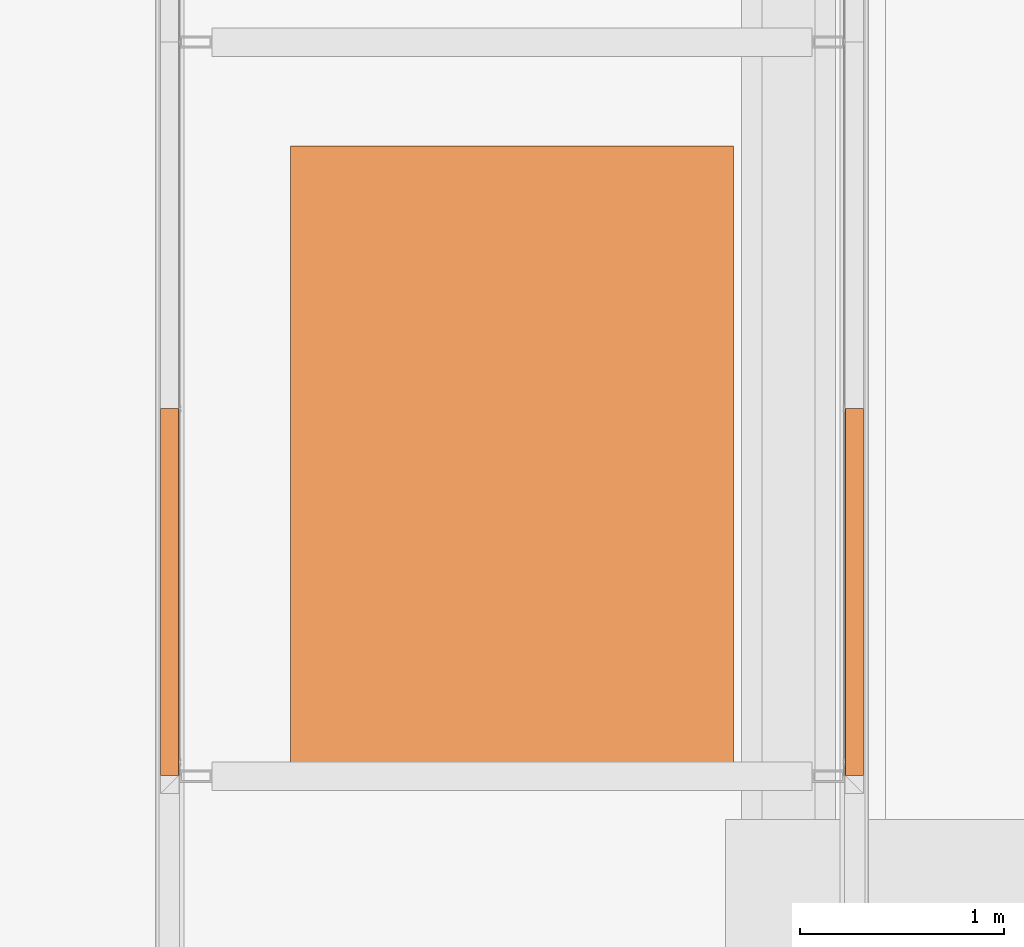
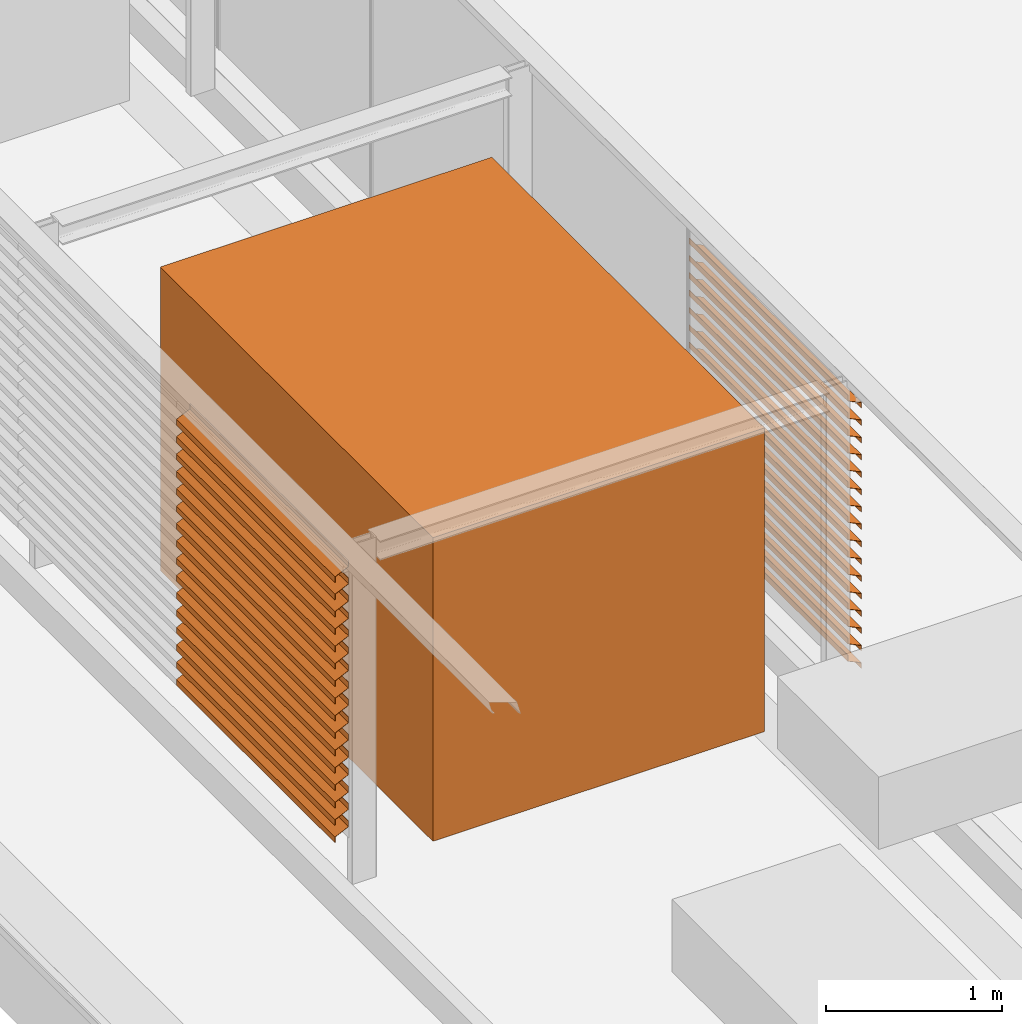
# One storey, part 22 of 32: 33 proxies.
"""IFC2X3 building model written with IfcOpenShell, lengths in millimetres."""

from ifc_helpers import new_model, entity, si_unit, converted_unit, derived_unit, direction, frame, frame_2d, origin, place, context, subcontext, project, spatial, polyline, rectangle, outline, extrude, source, transform, mapped, material, type_object, type_shapes, element, save


model = new_model("IFC2X3")

# Units and contexts
model_context = context("Model", 3, precision=0.01, world=origin(), true_north=direction((6.123031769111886e-17, 1.0)))
body_context = subcontext(model_context, "Body", "Model", "MODEL_VIEW")
ifc_project = project(units=[si_unit("LENGTHUNIT", "METRE", prefix="MILLI"), si_unit("AREAUNIT", "SQUARE_METRE"), si_unit("VOLUMEUNIT", "CUBIC_METRE"), converted_unit("PLANEANGLEUNIT", "DEGREE", entity("IfcRatioMeasure", 0.017453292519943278), si_unit("PLANEANGLEUNIT", "RADIAN"), dimensions=[0, 0, 0, 0, 0, 0, 0]), si_unit("MASSUNIT", "GRAM", prefix="KILO"), derived_unit("MASSDENSITYUNIT", [(si_unit("MASSUNIT", "GRAM", prefix="KILO"), 1), (si_unit("LENGTHUNIT", "METRE"), -3)]), derived_unit("IONCONCENTRATIONUNIT", [(si_unit("MASSUNIT", "GRAM", prefix="KILO"), 1), (si_unit("LENGTHUNIT", "METRE"), -3)]), derived_unit("MOMENTOFINERTIAUNIT", [(si_unit("LENGTHUNIT", "METRE"), 4)]), si_unit("TIMEUNIT", "SECOND"), si_unit("FREQUENCYUNIT", "HERTZ"), si_unit("THERMODYNAMICTEMPERATUREUNIT", "DEGREE_CELSIUS"), derived_unit("THERMALTRANSMITTANCEUNIT", [(si_unit("MASSUNIT", "GRAM", prefix="KILO"), 1), (si_unit("THERMODYNAMICTEMPERATUREUNIT", "KELVIN"), -1), (si_unit("TIMEUNIT", "SECOND"), -3)]), derived_unit("THERMALCONDUCTANCEUNIT", [(si_unit("MASSUNIT", "GRAM", prefix="KILO"), 1), (si_unit("THERMODYNAMICTEMPERATUREUNIT", "KELVIN"), -1), (si_unit("TIMEUNIT", "SECOND"), -3), (si_unit("LENGTHUNIT", "METRE"), 1)]), derived_unit("VOLUMETRICFLOWRATEUNIT", [(si_unit("LENGTHUNIT", "METRE"), 3), (si_unit("TIMEUNIT", "SECOND"), -1)]), derived_unit("MASSFLOWRATEUNIT", [(si_unit("MASSUNIT", "GRAM", prefix="KILO"), 1), (si_unit("TIMEUNIT", "SECOND"), -1)]), derived_unit("ROTATIONALFREQUENCYUNIT", [(si_unit("TIMEUNIT", "SECOND"), -1)]), si_unit("ELECTRICCURRENTUNIT", "AMPERE"), si_unit("ELECTRICVOLTAGEUNIT", "VOLT"), si_unit("POWERUNIT", "WATT"), si_unit("FORCEUNIT", "NEWTON", prefix="KILO"), si_unit("ILLUMINANCEUNIT", "LUX"), si_unit("LUMINOUSFLUXUNIT", "LUMEN"), si_unit("LUMINOUSINTENSITYUNIT", "CANDELA"), derived_unit("USERDEFINED", [(si_unit("MASSUNIT", "GRAM", prefix="KILO"), -1), (si_unit("LENGTHUNIT", "METRE"), -2), (si_unit("TIMEUNIT", "SECOND"), 3), (si_unit("LUMINOUSFLUXUNIT", "LUMEN"), 1)]), derived_unit("USERDEFINED", [(si_unit("MASSUNIT", "GRAM", prefix="KILO"), 1), (si_unit("TIMEUNIT", "SECOND"), -3), (si_unit("LENGTHUNIT", "METRE"), 3), (si_unit("ELECTRICCURRENTUNIT", "AMPERE"), -2)]), derived_unit("SOUNDPOWERUNIT", [(si_unit("MASSUNIT", "GRAM", prefix="KILO"), 1), (si_unit("TIMEUNIT", "SECOND"), -3), (si_unit("LENGTHUNIT", "METRE"), 2)]), derived_unit("SOUNDPRESSUREUNIT", [(si_unit("MASSUNIT", "GRAM", prefix="KILO"), 1), (si_unit("LENGTHUNIT", "METRE"), -1), (si_unit("TIMEUNIT", "SECOND"), -2)]), derived_unit("LINEARVELOCITYUNIT", [(si_unit("LENGTHUNIT", "METRE"), 1), (si_unit("TIMEUNIT", "SECOND"), -1)]), si_unit("PRESSUREUNIT", "PASCAL"), derived_unit("USERDEFINED", [(si_unit("MASSUNIT", "GRAM", prefix="KILO"), 1), (si_unit("LENGTHUNIT", "METRE"), -2), (si_unit("TIMEUNIT", "SECOND"), -2)]), derived_unit("LINEARFORCEUNIT", [(si_unit("MASSUNIT", "GRAM", prefix="KILO"), 1), (si_unit("TIMEUNIT", "SECOND"), -2)]), derived_unit("PLANARFORCEUNIT", [(si_unit("MASSUNIT", "GRAM", prefix="KILO"), 1), (si_unit("LENGTHUNIT", "METRE"), -1), (si_unit("TIMEUNIT", "SECOND"), -2)]), derived_unit("SPECIFICHEATCAPACITYUNIT", [(si_unit("THERMODYNAMICTEMPERATUREUNIT", "KELVIN"), -1), (si_unit("LENGTHUNIT", "METRE"), 2), (si_unit("TIMEUNIT", "SECOND"), -2)]), derived_unit("HEATINGVALUEUNIT", [(si_unit("LENGTHUNIT", "METRE"), 2), (si_unit("TIMEUNIT", "SECOND"), -2)]), derived_unit("VAPORPERMEABILITYUNIT", [(si_unit("LENGTHUNIT", "METRE"), -1), (si_unit("TIMEUNIT", "SECOND"), 1)]), derived_unit("DYNAMICVISCOSITYUNIT", [(si_unit("MASSUNIT", "GRAM", prefix="KILO"), 1), (si_unit("TIMEUNIT", "SECOND"), -1), (si_unit("LENGTHUNIT", "METRE"), -1)]), derived_unit("THERMALEXPANSIONCOEFFICIENTUNIT", [(si_unit("THERMODYNAMICTEMPERATUREUNIT", "KELVIN"), -1)]), derived_unit("MODULUSOFELASTICITYUNIT", [(si_unit("MASSUNIT", "GRAM", prefix="KILO"), 1), (si_unit("LENGTHUNIT", "METRE"), -1), (si_unit("TIMEUNIT", "SECOND"), -2)]), derived_unit("ISOTHERMALMOISTURECAPACITYUNIT", [(si_unit("LENGTHUNIT", "METRE"), 3), (si_unit("MASSUNIT", "GRAM", prefix="KILO"), -1)]), derived_unit("MOISTUREDIFFUSIVITYUNIT", [(si_unit("TIMEUNIT", "SECOND"), -1), (si_unit("LENGTHUNIT", "METRE"), 2)])], contexts=[model_context])

# Site, building, storey
site_placement = place(None, frame((0.0, 300.0, 0.0)))
site = spatial("IfcSite", under=ifc_project, at=site_placement, Name="<Kadastrale nummers>", CompositionType="ELEMENT")
building_placement = place(site_placement, origin())
building = spatial("IfcBuilding", under=site, at=building_placement, CompositionType="ELEMENT")
storey_placement = place(building_placement, frame((0.0, 0.0, 7150.000035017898)))
storey = spatial("IfcBuildingStorey", under=building, at=storey_placement, Name="02 tweede verdieping", CompositionType="ELEMENT", Elevation=7150.000035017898)

# Proxies
building_element_proxy_type_1 = type_object("IfcBuildingElementProxyType", Name="6286649", PredefinedType="NOTDEFINED")
proxy_1_placement = place(storey_placement, origin())
element("IfcBuildingElementProxy", 1, at=proxy_1_placement, inside=storey, type_object=building_element_proxy_type_1, Name="6286649", context=body_context, shape_type="SweptSolid", body=[
    extrude(outline(polyline([(20.108860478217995, -45.0), (60.108860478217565, -45.0), (58.75984344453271, -43.0), (21.383000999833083, -43.0), (-19.652072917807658, 45.0), (-59.89113952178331, 45.0), (-59.89113952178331, 43.0), (-20.92621343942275, 43.0), (20.108860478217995, -45.0)])), frame((41723.0, 31805.0, 2360.1088604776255), z_axis=(0.0, 1.0, 0.0), x_axis=(0.0, 0.0, -1.0)), (0.0, 0.0, 1.0), 1797.5000001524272),
])
building_element_proxy_type_2 = type_object("IfcBuildingElementProxyType", Name="6286650", PredefinedType="NOTDEFINED")
proxy_2_placement = place(storey_placement, origin())
element("IfcBuildingElementProxy", 2, at=proxy_2_placement, inside=storey, type_object=building_element_proxy_type_2, Name="6286650", context=body_context, shape_type="SweptSolid", body=[
    extrude(outline(polyline([(20.108860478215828, -45.0), (60.1088604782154, -45.0), (58.75984344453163, -43.0), (21.383000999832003, -43.0), (-19.65207291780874, 45.0), (-59.891139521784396, 45.0), (-59.891139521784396, 43.0), (-20.926213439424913, 43.0), (20.108860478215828, -45.0)])), frame((41723.0, 31805.0, 2240.1088604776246), z_axis=(0.0, 1.0, 0.0), x_axis=(0.0, 0.0, -1.0)), (0.0, 0.0, 1.0), 1797.5000001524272),
])
building_element_proxy_type_3 = type_object("IfcBuildingElementProxyType", Name="6286651", PredefinedType="NOTDEFINED")
proxy_3_placement = place(storey_placement, origin())
element("IfcBuildingElementProxy", 3, at=proxy_3_placement, inside=storey, type_object=building_element_proxy_type_3, Name="6286651", context=body_context, shape_type="SweptSolid", body=[
    extrude(outline(polyline([(20.10886047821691, -45.0), (60.108860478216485, -45.0), (58.75984344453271, -43.0), (21.383000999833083, -43.0), (-19.652072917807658, 45.0), (-59.89113952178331, 45.0), (-59.89113952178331, 43.0), (-20.92621343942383, 43.0), (20.10886047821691, -45.0)])), frame((41723.0, 31805.0, 2120.1088604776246), z_axis=(0.0, 1.0, 0.0), x_axis=(0.0, 0.0, -1.0)), (0.0, 0.0, 1.0), 1797.5000001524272),
])
building_element_proxy_type_4 = type_object("IfcBuildingElementProxyType", Name="6286652", PredefinedType="NOTDEFINED")
proxy_4_placement = place(storey_placement, origin())
element("IfcBuildingElementProxy", 4, at=proxy_4_placement, inside=storey, type_object=building_element_proxy_type_4, Name="6286652", context=body_context, shape_type="SweptSolid", body=[
    extrude(outline(polyline([(20.108860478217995, -45.0), (60.108860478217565, -45.0), (58.7598434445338, -43.0), (21.383000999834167, -43.0), (-19.652072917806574, 45.0), (-59.89113952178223, 45.0), (-59.89113952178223, 43.0), (-20.92621343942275, 43.0), (20.108860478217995, -45.0)])), frame((41723.0, 31805.0, 2000.108860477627), z_axis=(0.0, 1.0, 0.0), x_axis=(0.0, 0.0, -1.0)), (0.0, 0.0, 1.0), 1797.5000001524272),
])
building_element_proxy_type_5 = type_object("IfcBuildingElementProxyType", Name="6286653", PredefinedType="NOTDEFINED")
proxy_5_placement = place(storey_placement, origin())
element("IfcBuildingElementProxy", 5, at=proxy_5_placement, inside=storey, type_object=building_element_proxy_type_5, Name="6286653", context=body_context, shape_type="SweptSolid", body=[
    extrude(outline(polyline([(20.10886047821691, -45.0), (60.108860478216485, -45.0), (58.75984344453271, -43.0), (21.383000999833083, -43.0), (-19.652072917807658, 45.0), (-59.89113952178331, 45.0), (-59.89113952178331, 43.0), (-20.92621343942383, 43.0), (20.10886047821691, -45.0)])), frame((41723.0, 31805.0, 1880.108860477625), z_axis=(0.0, 1.0, 0.0), x_axis=(0.0, 0.0, -1.0)), (0.0, 0.0, 1.0), 1797.5000001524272),
])
building_element_proxy_type_6 = type_object("IfcBuildingElementProxyType", Name="6286654", PredefinedType="NOTDEFINED")
proxy_6_placement = place(storey_placement, origin())
element("IfcBuildingElementProxy", 6, at=proxy_6_placement, inside=storey, type_object=building_element_proxy_type_6, Name="6286654", context=body_context, shape_type="SweptSolid", body=[
    extrude(outline(polyline([(20.10886047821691, -45.0), (60.108860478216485, -45.0), (58.75984344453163, -43.0), (21.383000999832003, -43.0), (-19.65207291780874, 45.0), (-59.891139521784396, 45.0), (-59.891139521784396, 43.0), (-20.92621343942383, 43.0), (20.10886047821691, -45.0)])), frame((41723.0, 31805.0, 1760.1088604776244), z_axis=(0.0, 1.0, 0.0), x_axis=(0.0, 0.0, -1.0)), (0.0, 0.0, 1.0), 1797.5000001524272),
])
building_element_proxy_type_7 = type_object("IfcBuildingElementProxyType", Name="6286655", PredefinedType="NOTDEFINED")
proxy_7_placement = place(storey_placement, origin())
element("IfcBuildingElementProxy", 7, at=proxy_7_placement, inside=storey, type_object=building_element_proxy_type_7, Name="6286655", context=body_context, shape_type="SweptSolid", body=[
    extrude(outline(polyline([(20.10886047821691, -45.0), (60.108860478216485, -45.0), (58.75984344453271, -43.0), (21.383000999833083, -43.0), (-19.652072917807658, 45.0), (-59.89113952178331, 45.0), (-59.89113952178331, 43.0), (-20.92621343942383, 43.0), (20.10886047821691, -45.0)])), frame((41723.0, 31805.0, 1640.1088604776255), z_axis=(0.0, 1.0, 0.0), x_axis=(0.0, 0.0, -1.0)), (0.0, 0.0, 1.0), 1797.5000001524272),
])
building_element_proxy_type_8 = type_object("IfcBuildingElementProxyType", Name="6286656", PredefinedType="NOTDEFINED")
proxy_8_placement = place(storey_placement, origin())
element("IfcBuildingElementProxy", 8, at=proxy_8_placement, inside=storey, type_object=building_element_proxy_type_8, Name="6286656", context=body_context, shape_type="SweptSolid", body=[
    extrude(outline(polyline([(20.108860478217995, -45.0), (60.108860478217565, -45.0), (58.75984344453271, -43.0), (21.383000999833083, -43.0), (-19.652072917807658, 45.0), (-59.89113952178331, 45.0), (-59.89113952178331, 43.0), (-20.92621343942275, 43.0), (20.108860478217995, -45.0)])), frame((41723.0, 31805.0, 1520.1088604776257), z_axis=(0.0, 1.0, 0.0), x_axis=(0.0, 0.0, -1.0)), (0.0, 0.0, 1.0), 1797.5000001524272),
])
building_element_proxy_type_9 = type_object("IfcBuildingElementProxyType", Name="6286657", PredefinedType="NOTDEFINED")
proxy_9_placement = place(storey_placement, origin())
element("IfcBuildingElementProxy", 9, at=proxy_9_placement, inside=storey, type_object=building_element_proxy_type_9, Name="6286657", context=body_context, shape_type="SweptSolid", body=[
    extrude(outline(polyline([(20.108860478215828, -45.0), (60.1088604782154, -45.0), (58.75984344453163, -43.0), (21.383000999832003, -43.0), (-19.65207291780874, 45.0), (-59.891139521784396, 45.0), (-59.891139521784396, 43.0), (-20.926213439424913, 43.0), (20.108860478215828, -45.0)])), frame((41723.0, 31805.0, 1400.1088604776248), z_axis=(0.0, 1.0, 0.0), x_axis=(0.0, 0.0, -1.0)), (0.0, 0.0, 1.0), 1797.5000001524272),
])
building_element_proxy_type_10 = type_object("IfcBuildingElementProxyType", Name="6286658", PredefinedType="NOTDEFINED")
proxy_10_placement = place(storey_placement, origin())
element("IfcBuildingElementProxy", 10, at=proxy_10_placement, inside=storey, type_object=building_element_proxy_type_10, Name="6286658", context=body_context, shape_type="SweptSolid", body=[
    extrude(outline(polyline([(20.10886047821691, -45.0), (60.108860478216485, -45.0), (58.75984344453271, -43.0), (21.383000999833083, -43.0), (-19.652072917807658, 45.0), (-59.89113952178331, 45.0), (-59.89113952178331, 43.0), (-20.92621343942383, 43.0), (20.10886047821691, -45.0)])), frame((41723.0, 31805.0, 1280.108860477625), z_axis=(0.0, 1.0, 0.0), x_axis=(0.0, 0.0, -1.0)), (0.0, 0.0, 1.0), 1797.5000001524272),
])
building_element_proxy_type_11 = type_object("IfcBuildingElementProxyType", Name="6286659", PredefinedType="NOTDEFINED")
proxy_11_placement = place(storey_placement, origin())
element("IfcBuildingElementProxy", 11, at=proxy_11_placement, inside=storey, type_object=building_element_proxy_type_11, Name="6286659", context=body_context, shape_type="SweptSolid", body=[
    extrude(outline(polyline([(20.108860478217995, -45.0), (60.108860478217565, -45.0), (58.75984344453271, -43.0), (21.383000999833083, -43.0), (-19.652072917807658, 45.0), (-59.89113952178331, 45.0), (-59.89113952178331, 43.0), (-20.92621343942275, 43.0), (20.108860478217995, -45.0)])), frame((41723.0, 31805.0, 1160.1088604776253), z_axis=(0.0, 1.0, 0.0), x_axis=(0.0, 0.0, -1.0)), (0.0, 0.0, 1.0), 1797.5000001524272),
])
building_element_proxy_type_12 = type_object("IfcBuildingElementProxyType", Name="6286660", PredefinedType="NOTDEFINED")
proxy_12_placement = place(storey_placement, origin())
element("IfcBuildingElementProxy", 12, at=proxy_12_placement, inside=storey, type_object=building_element_proxy_type_12, Name="6286660", context=body_context, shape_type="SweptSolid", body=[
    extrude(outline(polyline([(20.10886047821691, -45.0), (60.108860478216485, -45.0), (58.75984344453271, -43.0), (21.383000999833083, -43.0), (-19.652072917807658, 45.0), (-59.89113952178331, 45.0), (-59.89113952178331, 43.0), (-20.92621343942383, 43.0), (20.10886047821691, -45.0)])), frame((41723.0, 31805.0, 1040.1088604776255), z_axis=(0.0, 1.0, 0.0), x_axis=(0.0, 0.0, -1.0)), (0.0, 0.0, 1.0), 1797.5000001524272),
])
building_element_proxy_type_13 = type_object("IfcBuildingElementProxyType", Name="6286661", PredefinedType="NOTDEFINED")
proxy_13_placement = place(storey_placement, origin())
element("IfcBuildingElementProxy", 13, at=proxy_13_placement, inside=storey, type_object=building_element_proxy_type_13, Name="6286661", context=body_context, shape_type="SweptSolid", body=[
    extrude(outline(polyline([(20.10886047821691, -45.0), (60.108860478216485, -45.0), (58.75984344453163, -43.0), (21.383000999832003, -43.0), (-19.65207291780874, 45.0), (-59.891139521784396, 45.0), (-59.891139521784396, 43.0), (-20.92621343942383, 43.0), (20.10886047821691, -45.0)])), frame((41723.0, 31805.0, 920.1088604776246), z_axis=(0.0, 1.0, 0.0), x_axis=(0.0, 0.0, -1.0)), (0.0, 0.0, 1.0), 1797.5000001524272),
])
building_element_proxy_type_14 = type_object("IfcBuildingElementProxyType", Name="6286662", PredefinedType="NOTDEFINED")
proxy_14_placement = place(storey_placement, origin())
element("IfcBuildingElementProxy", 14, at=proxy_14_placement, inside=storey, type_object=building_element_proxy_type_14, Name="6286662", context=body_context, shape_type="SweptSolid", body=[
    extrude(outline(polyline([(20.10886047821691, -45.0), (60.108860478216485, -45.0), (58.75984344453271, -43.0), (21.383000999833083, -43.0), (-19.652072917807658, 45.0), (-59.89113952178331, 45.0), (-59.89113952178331, 43.0), (-20.92621343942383, 43.0), (20.10886047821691, -45.0)])), frame((41723.0, 31805.0, 800.108860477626), z_axis=(0.0, 1.0, 0.0), x_axis=(0.0, 0.0, -1.0)), (0.0, 0.0, 1.0), 1797.5000001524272),
])
building_element_proxy_type_15 = type_object("IfcBuildingElementProxyType", Name="6286663", PredefinedType="NOTDEFINED")
proxy_15_placement = place(storey_placement, origin())
element("IfcBuildingElementProxy", 15, at=proxy_15_placement, inside=storey, type_object=building_element_proxy_type_15, Name="6286663", context=body_context, shape_type="SweptSolid", body=[
    extrude(outline(polyline([(20.108860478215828, -45.0), (60.1088604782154, -45.0), (58.75984344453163, -43.0), (21.383000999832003, -43.0), (-19.65207291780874, 45.0), (-59.891139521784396, 45.0), (-59.891139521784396, 43.0), (-20.926213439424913, 43.0), (20.108860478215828, -45.0)])), frame((41723.0, 31805.0, 680.1088604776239), z_axis=(0.0, 1.0, 0.0), x_axis=(0.0, 0.0, -1.0)), (0.0, 0.0, 1.0), 1797.5000001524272),
])
building_element_proxy_type_16 = type_object("IfcBuildingElementProxyType", Name="6286664", PredefinedType="NOTDEFINED")
proxy_16_placement = place(storey_placement, origin())
element("IfcBuildingElementProxy", 16, at=proxy_16_placement, inside=storey, type_object=building_element_proxy_type_16, Name="6286664", context=body_context, shape_type="SweptSolid", body=[
    extrude(outline(polyline([(20.10886047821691, -45.0), (60.108860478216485, -45.0), (58.75984344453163, -43.0), (21.383000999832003, -43.0), (-19.65207291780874, 45.0), (-59.891139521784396, 45.0), (-59.891139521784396, 43.0), (-20.92621343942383, 43.0), (20.10886047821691, -45.0)])), frame((41723.0, 31805.0, 560.1088604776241), z_axis=(0.0, 1.0, 0.0), x_axis=(0.0, 0.0, -1.0)), (0.0, 0.0, 1.0), 1797.5000001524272),
])
building_element_proxy_type_17 = type_object("IfcBuildingElementProxyType", Name="6287340", PredefinedType="NOTDEFINED")
proxy_17_placement = place(storey_placement, origin())
element("IfcBuildingElementProxy", 17, at=proxy_17_placement, inside=storey, type_object=building_element_proxy_type_17, Name="6287340", context=body_context, shape_type="SweptSolid", body=[
    extrude(outline(polyline([(-49.282222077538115, 0.7930049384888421), (-66.18695254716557, -35.459306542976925), (-63.80421773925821, -35.08191842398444), (-48.00808155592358, -1.206995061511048), (49.08917531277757, -1.2069950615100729), (66.09493969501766, 35.26198434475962), (64.28232412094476, 36.107220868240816), (47.81503479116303, 0.7930049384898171), (-49.282222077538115, 0.7930049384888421)])), frame((38367.0, 31805.0, 2360.108860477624), z_axis=(0.0, -1.0, 0.0), x_axis=(0.9063077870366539, 0.0, 0.4226182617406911)), (0.0, 0.0, -1.0), 1797.5000001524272),
])
building_element_proxy_type_18 = type_object("IfcBuildingElementProxyType", Name="6287341", PredefinedType="NOTDEFINED")
proxy_18_placement = place(storey_placement, origin())
element("IfcBuildingElementProxy", 18, at=proxy_18_placement, inside=storey, type_object=building_element_proxy_type_18, Name="6287341", context=body_context, shape_type="SweptSolid", body=[
    extrude(outline(polyline([(-49.282222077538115, 0.7930049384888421), (-66.18695254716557, -35.459306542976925), (-63.804217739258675, -35.08191842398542), (-48.008081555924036, -1.2069950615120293), (49.08917531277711, -1.2069950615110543), (66.0949396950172, 35.26198434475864), (64.28232412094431, 36.10722086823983), (47.81503479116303, 0.7930049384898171), (-49.282222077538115, 0.7930049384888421)])), frame((38367.0, 31805.0, 2240.1088604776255), z_axis=(0.0, -1.0, 0.0), x_axis=(0.9063077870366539, 0.0, 0.4226182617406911)), (0.0, 0.0, -1.0), 1797.5000001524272),
])
building_element_proxy_type_19 = type_object("IfcBuildingElementProxyType", Name="6287342", PredefinedType="NOTDEFINED")
proxy_19_placement = place(storey_placement, origin())
element("IfcBuildingElementProxy", 19, at=proxy_19_placement, inside=storey, type_object=building_element_proxy_type_19, Name="6287342", context=body_context, shape_type="SweptSolid", body=[
    extrude(outline(polyline([(-49.28222207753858, 0.7930049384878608), (-66.18695254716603, -35.459306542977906), (-63.80421773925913, -35.08191842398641), (-48.00808155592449, -1.2069950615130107), (49.08917531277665, -1.2069950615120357), (66.09493969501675, 35.26198434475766), (64.28232412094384, 36.10722086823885), (47.815034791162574, 0.7930049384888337), (-49.28222207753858, 0.7930049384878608)])), frame((38367.0, 31805.0, 2120.108860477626), z_axis=(0.0, -1.0, 0.0), x_axis=(0.9063077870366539, 0.0, 0.4226182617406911)), (0.0, 0.0, -1.0), 1797.5000001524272),
])
building_element_proxy_type_20 = type_object("IfcBuildingElementProxyType", Name="6287343", PredefinedType="NOTDEFINED")
proxy_20_placement = place(storey_placement, origin())
element("IfcBuildingElementProxy", 20, at=proxy_20_placement, inside=storey, type_object=building_element_proxy_type_20, Name="6287343", context=body_context, shape_type="SweptSolid", body=[
    extrude(outline(polyline([(-49.28222207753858, 0.7930049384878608), (-66.18695254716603, -35.459306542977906), (-63.80421773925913, -35.08191842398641), (-48.00808155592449, -1.2069950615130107), (49.08917531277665, -1.2069950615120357), (66.09493969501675, 35.26198434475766), (64.28232412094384, 36.10722086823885), (47.815034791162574, 0.7930049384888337), (-49.28222207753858, 0.7930049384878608)])), frame((38367.0, 31805.0, 2000.108860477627), z_axis=(0.0, -1.0, 0.0), x_axis=(0.9063077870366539, 0.0, 0.4226182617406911)), (0.0, 0.0, -1.0), 1797.5000001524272),
])
building_element_proxy_type_21 = type_object("IfcBuildingElementProxyType", Name="6287344", PredefinedType="NOTDEFINED")
proxy_21_placement = place(storey_placement, origin())
element("IfcBuildingElementProxy", 21, at=proxy_21_placement, inside=storey, type_object=building_element_proxy_type_21, Name="6287344", context=body_context, shape_type="SweptSolid", body=[
    extrude(outline(polyline([(-49.282222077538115, 0.7930049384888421), (-66.18695254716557, -35.459306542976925), (-63.804217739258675, -35.08191842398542), (-48.008081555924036, -1.2069950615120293), (49.08917531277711, -1.2069950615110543), (66.0949396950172, 35.26198434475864), (64.28232412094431, 36.10722086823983), (47.81503479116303, 0.7930049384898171), (-49.282222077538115, 0.7930049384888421)])), frame((38367.0, 31805.0, 1880.108860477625), z_axis=(0.0, -1.0, 0.0), x_axis=(0.9063077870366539, 0.0, 0.4226182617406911)), (0.0, 0.0, -1.0), 1797.5000001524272),
])
building_element_proxy_type_22 = type_object("IfcBuildingElementProxyType", Name="6287345", PredefinedType="NOTDEFINED")
proxy_22_placement = place(storey_placement, origin())
element("IfcBuildingElementProxy", 22, at=proxy_22_placement, inside=storey, type_object=building_element_proxy_type_22, Name="6287345", context=body_context, shape_type="SweptSolid", body=[
    extrude(outline(polyline([(-49.282222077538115, 0.7930049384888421), (-66.18695254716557, -35.459306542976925), (-63.80421773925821, -35.08191842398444), (-48.00808155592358, -1.206995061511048), (49.08917531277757, -1.2069950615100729), (66.09493969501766, 35.26198434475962), (64.28232412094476, 36.107220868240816), (47.81503479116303, 0.7930049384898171), (-49.282222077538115, 0.7930049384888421)])), frame((38367.0, 31805.0, 1760.1088604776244), z_axis=(0.0, -1.0, 0.0), x_axis=(0.9063077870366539, 0.0, 0.4226182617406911)), (0.0, 0.0, -1.0), 1797.5000001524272),
])
building_element_proxy_type_23 = type_object("IfcBuildingElementProxyType", Name="6287346", PredefinedType="NOTDEFINED")
proxy_23_placement = place(storey_placement, origin())
element("IfcBuildingElementProxy", 23, at=proxy_23_placement, inside=storey, type_object=building_element_proxy_type_23, Name="6287346", context=body_context, shape_type="SweptSolid", body=[
    extrude(outline(polyline([(-49.28222207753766, 0.7930049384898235), (-66.18695254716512, -35.459306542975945), (-63.80421773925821, -35.08191842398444), (-48.00808155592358, -1.206995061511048), (49.08917531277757, -1.2069950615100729), (66.09493969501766, 35.26198434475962), (64.28232412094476, 36.107220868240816), (47.815034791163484, 0.7930049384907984), (-49.28222207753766, 0.7930049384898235)])), frame((38367.0, 31805.0, 1640.1088604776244), z_axis=(0.0, -1.0, 0.0), x_axis=(0.9063077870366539, 0.0, 0.4226182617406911)), (0.0, 0.0, -1.0), 1797.5000001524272),
])
building_element_proxy_type_24 = type_object("IfcBuildingElementProxyType", Name="6287347", PredefinedType="NOTDEFINED")
proxy_24_placement = place(storey_placement, origin())
element("IfcBuildingElementProxy", 24, at=proxy_24_placement, inside=storey, type_object=building_element_proxy_type_24, Name="6287347", context=body_context, shape_type="SweptSolid", body=[
    extrude(outline(polyline([(-49.282222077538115, 0.7930049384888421), (-66.18695254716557, -35.459306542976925), (-63.80421773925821, -35.08191842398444), (-48.00808155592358, -1.206995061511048), (49.08917531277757, -1.2069950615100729), (66.09493969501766, 35.26198434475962), (64.28232412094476, 36.107220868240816), (47.81503479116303, 0.7930049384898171), (-49.282222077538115, 0.7930049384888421)])), frame((38367.0, 31805.0, 1520.1088604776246), z_axis=(0.0, -1.0, 0.0), x_axis=(0.9063077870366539, 0.0, 0.4226182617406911)), (0.0, 0.0, -1.0), 1797.5000001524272),
])
building_element_proxy_type_25 = type_object("IfcBuildingElementProxyType", Name="6287348", PredefinedType="NOTDEFINED")
proxy_25_placement = place(storey_placement, origin())
element("IfcBuildingElementProxy", 25, at=proxy_25_placement, inside=storey, type_object=building_element_proxy_type_25, Name="6287348", context=body_context, shape_type="SweptSolid", body=[
    extrude(outline(polyline([(-49.282222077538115, 0.7930049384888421), (-66.18695254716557, -35.459306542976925), (-63.804217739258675, -35.08191842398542), (-48.008081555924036, -1.2069950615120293), (49.08917531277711, -1.2069950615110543), (66.0949396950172, 35.26198434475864), (64.28232412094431, 36.10722086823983), (47.81503479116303, 0.7930049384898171), (-49.282222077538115, 0.7930049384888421)])), frame((38367.0, 31805.0, 1400.108860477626), z_axis=(0.0, -1.0, 0.0), x_axis=(0.9063077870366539, 0.0, 0.4226182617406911)), (0.0, 0.0, -1.0), 1797.5000001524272),
])
building_element_proxy_type_26 = type_object("IfcBuildingElementProxyType", Name="6287349", PredefinedType="NOTDEFINED")
proxy_26_placement = place(storey_placement, origin())
element("IfcBuildingElementProxy", 26, at=proxy_26_placement, inside=storey, type_object=building_element_proxy_type_26, Name="6287349", context=body_context, shape_type="SweptSolid", body=[
    extrude(outline(polyline([(-49.28222207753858, 0.7930049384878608), (-66.18695254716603, -35.459306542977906), (-63.80421773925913, -35.08191842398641), (-48.00808155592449, -1.2069950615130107), (49.08917531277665, -1.2069950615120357), (66.09493969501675, 35.26198434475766), (64.28232412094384, 36.10722086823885), (47.815034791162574, 0.7930049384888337), (-49.28222207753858, 0.7930049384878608)])), frame((38367.0, 31805.0, 1280.1088604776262), z_axis=(0.0, -1.0, 0.0), x_axis=(0.9063077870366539, 0.0, 0.4226182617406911)), (0.0, 0.0, -1.0), 1797.5000001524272),
])
building_element_proxy_type_27 = type_object("IfcBuildingElementProxyType", Name="6287350", PredefinedType="NOTDEFINED")
proxy_27_placement = place(storey_placement, origin())
element("IfcBuildingElementProxy", 27, at=proxy_27_placement, inside=storey, type_object=building_element_proxy_type_27, Name="6287350", context=body_context, shape_type="SweptSolid", body=[
    extrude(outline(polyline([(-49.28222207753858, 0.7930049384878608), (-66.18695254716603, -35.459306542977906), (-63.804217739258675, -35.08191842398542), (-48.008081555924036, -1.2069950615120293), (49.08917531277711, -1.2069950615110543), (66.0949396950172, 35.26198434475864), (64.28232412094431, 36.10722086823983), (47.815034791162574, 0.7930049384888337), (-49.28222207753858, 0.7930049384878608)])), frame((38367.0, 31805.0, 1160.1088604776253), z_axis=(0.0, -1.0, 0.0), x_axis=(0.9063077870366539, 0.0, 0.4226182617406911)), (0.0, 0.0, -1.0), 1797.5000001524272),
])
building_element_proxy_type_28 = type_object("IfcBuildingElementProxyType", Name="6287351", PredefinedType="NOTDEFINED")
proxy_28_placement = place(storey_placement, origin())
element("IfcBuildingElementProxy", 28, at=proxy_28_placement, inside=storey, type_object=building_element_proxy_type_28, Name="6287351", context=body_context, shape_type="SweptSolid", body=[
    extrude(outline(polyline([(-49.282222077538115, 0.7930049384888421), (-66.18695254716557, -35.459306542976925), (-63.804217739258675, -35.08191842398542), (-48.008081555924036, -1.2069950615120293), (49.08917531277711, -1.2069950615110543), (66.0949396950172, 35.26198434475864), (64.28232412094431, 36.10722086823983), (47.81503479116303, 0.7930049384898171), (-49.282222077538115, 0.7930049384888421)])), frame((38367.0, 31805.0, 1040.1088604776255), z_axis=(0.0, -1.0, 0.0), x_axis=(0.9063077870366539, 0.0, 0.4226182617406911)), (0.0, 0.0, -1.0), 1797.5000001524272),
])
building_element_proxy_type_29 = type_object("IfcBuildingElementProxyType", Name="6287352", PredefinedType="NOTDEFINED")
proxy_29_placement = place(storey_placement, origin())
element("IfcBuildingElementProxy", 29, at=proxy_29_placement, inside=storey, type_object=building_element_proxy_type_29, Name="6287352", context=body_context, shape_type="SweptSolid", body=[
    extrude(outline(polyline([(-49.282222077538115, 0.7930049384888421), (-66.18695254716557, -35.459306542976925), (-63.80421773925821, -35.08191842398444), (-48.00808155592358, -1.206995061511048), (49.08917531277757, -1.2069950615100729), (66.09493969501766, 35.26198434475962), (64.28232412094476, 36.107220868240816), (47.81503479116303, 0.7930049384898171), (-49.282222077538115, 0.7930049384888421)])), frame((38367.0, 31805.0, 920.1088604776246), z_axis=(0.0, -1.0, 0.0), x_axis=(0.9063077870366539, 0.0, 0.4226182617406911)), (0.0, 0.0, -1.0), 1797.5000001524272),
])
building_element_proxy_type_30 = type_object("IfcBuildingElementProxyType", Name="6287353", PredefinedType="NOTDEFINED")
proxy_30_placement = place(storey_placement, origin())
element("IfcBuildingElementProxy", 30, at=proxy_30_placement, inside=storey, type_object=building_element_proxy_type_30, Name="6287353", context=body_context, shape_type="SweptSolid", body=[
    extrude(outline(polyline([(-49.28222207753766, 0.7930049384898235), (-66.18695254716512, -35.459306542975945), (-63.80421773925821, -35.08191842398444), (-48.00808155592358, -1.206995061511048), (49.08917531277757, -1.2069950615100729), (66.09493969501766, 35.26198434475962), (64.28232412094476, 36.107220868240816), (47.815034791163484, 0.7930049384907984), (-49.28222207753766, 0.7930049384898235)])), frame((38367.0, 31805.0, 800.1088604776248), z_axis=(0.0, -1.0, 0.0), x_axis=(0.9063077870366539, 0.0, 0.4226182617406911)), (0.0, 0.0, -1.0), 1797.5000001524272),
])
building_element_proxy_type_31 = type_object("IfcBuildingElementProxyType", Name="6287354", PredefinedType="NOTDEFINED")
proxy_31_placement = place(storey_placement, origin())
element("IfcBuildingElementProxy", 31, at=proxy_31_placement, inside=storey, type_object=building_element_proxy_type_31, Name="6287354", context=body_context, shape_type="SweptSolid", body=[
    extrude(outline(polyline([(-49.282222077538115, 0.7930049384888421), (-66.18695254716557, -35.459306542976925), (-63.804217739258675, -35.08191842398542), (-48.008081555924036, -1.2069950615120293), (49.08917531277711, -1.2069950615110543), (66.0949396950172, 35.26198434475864), (64.28232412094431, 36.10722086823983), (47.81503479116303, 0.7930049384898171), (-49.282222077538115, 0.7930049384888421)])), frame((38367.0, 31805.0, 680.1088604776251), z_axis=(0.0, -1.0, 0.0), x_axis=(0.9063077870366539, 0.0, 0.4226182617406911)), (0.0, 0.0, -1.0), 1797.5000001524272),
])
building_element_proxy_type_32 = type_object("IfcBuildingElementProxyType", Name="6287355", PredefinedType="NOTDEFINED")
proxy_32_placement = place(storey_placement, origin())
element("IfcBuildingElementProxy", 32, at=proxy_32_placement, inside=storey, type_object=building_element_proxy_type_32, Name="6287355", context=body_context, shape_type="SweptSolid", body=[
    extrude(outline(polyline([(-49.28222207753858, 0.7930049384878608), (-66.18695254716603, -35.459306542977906), (-63.804217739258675, -35.08191842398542), (-48.008081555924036, -1.2069950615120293), (49.08917531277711, -1.2069950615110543), (66.0949396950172, 35.26198434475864), (64.28232412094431, 36.10722086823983), (47.815034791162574, 0.7930049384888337), (-49.28222207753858, 0.7930049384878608)])), frame((38367.0, 31805.0, 560.1088604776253), z_axis=(0.0, -1.0, 0.0), x_axis=(0.9063077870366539, 0.0, 0.4226182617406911)), (0.0, 0.0, -1.0), 1797.5000001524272),
])
ifc_material = material(Name="<Unnamed>")
building_element_proxy_type_33 = type_object("IfcBuildingElementProxyType", Name="LBK:LBK", PredefinedType="NOTDEFINED", material=ifc_material)
shared_shape = source(origin(), body_context, "Body", "SweptSolid", [
    extrude(rectangle(XDim=3089.999999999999, YDim=2170.0000000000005, at=frame_2d((0.0, -4.320099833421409e-12), x_axis=(1.0, 0.0))), frame((40045.0, 33345.0, 7150.000035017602), z_axis=(0.0, 0.0, 1.0), x_axis=(0.0, 1.0, 0.0)), (0.0, 0.0, 1.0), 2100.0),
])
type_shapes(building_element_proxy_type_33, [shared_shape])
proxy_33_placement = place(storey_placement, frame((0.0, 0.0, -6860.000035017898)))
element("IfcBuildingElementProxy", 33, at=proxy_33_placement, inside=storey, type_object=building_element_proxy_type_33, material=ifc_material, Name="LBK:LBK", ObjectType="LBK:LBK", context=body_context, shape_type="MappedRepresentation", body=[
    mapped(shared_shape, transform((0.0, 0.0, 0.0), scale=1.0)),
])

save(model, "model.ifc")
